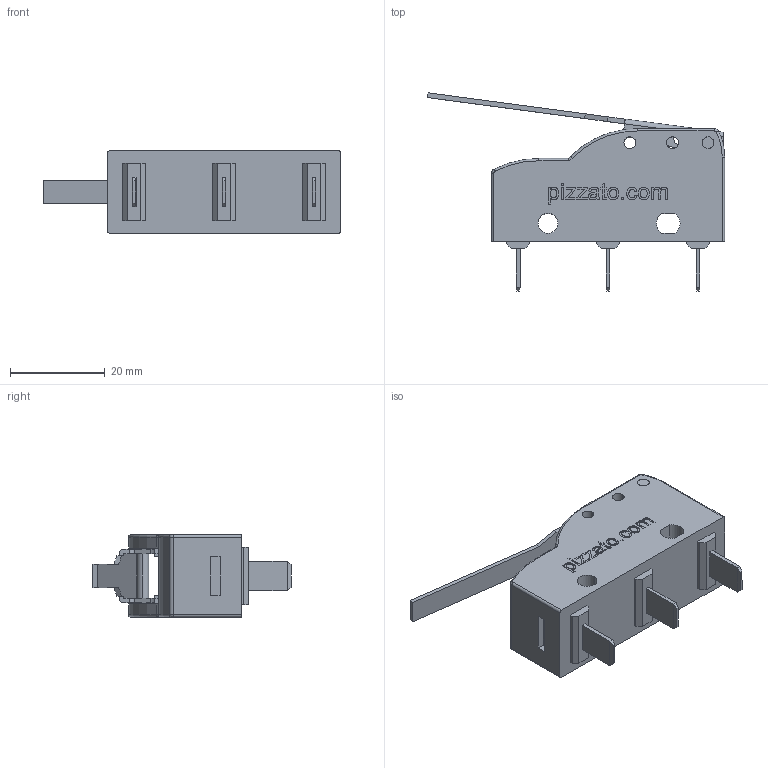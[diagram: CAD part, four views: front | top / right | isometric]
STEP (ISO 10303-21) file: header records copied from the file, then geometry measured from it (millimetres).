
FILE_DESCRIPTION (( 'STEP AP203' ), '1' );
FILE_NAME ('Pizzato_MK_HxxF32.STEP', '2009-02-13T16:28:11', ( 'mario' ), ( '' ), 'SwSTEP 2.0', 'SolidWorks 2009', '' );
FILE_SCHEMA (( 'CONFIG_CONTROL_DESIGN' ));
Length unit declared in the file: millimetre
Products named in the file (4): Pizzato_Custodia_MK_MKH_Leva; Pizzato_Perno Leva; Pizzato_Leva_MK32_MK32; Pizzato_MK_HxxF32
Assembly tree (3 placements, depth 2):
  Pizzato_MK_HxxF32
    Pizzato_Perno Leva
    Pizzato_Custodia_MK_MKH_Leva
    Pizzato_Leva_MK32_MK32
Bounding box: 62.76 x 41.86 x 17.4 mm (x, y, z)
Volume: 16156 mm3; surface area: 7279.8 mm2
Topology: 3 solids, 3 shells, 456 faces, 1202 edges, 790 vertices
Faces by surface type: plane 296, cylinder 81, bspline 69, torus 10
Entity records: 17780 total; most frequent: CARTESIAN_POINT 6353, ORIENTED_EDGE 2404, DIRECTION 2022, EDGE_CURVE 1202, VECTOR 888, LINE 888, VERTEX_POINT 790, AXIS2_PLACEMENT_3D 567
